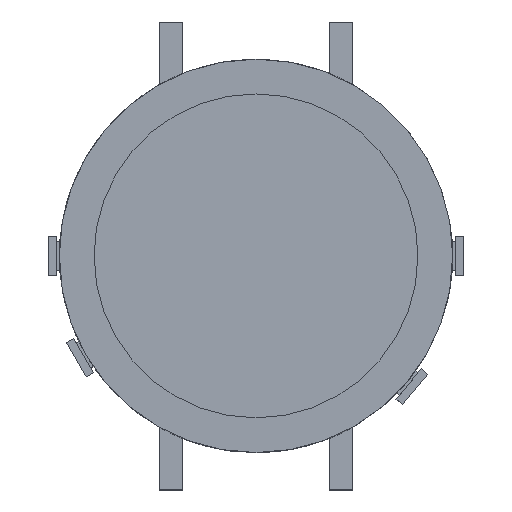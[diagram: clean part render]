
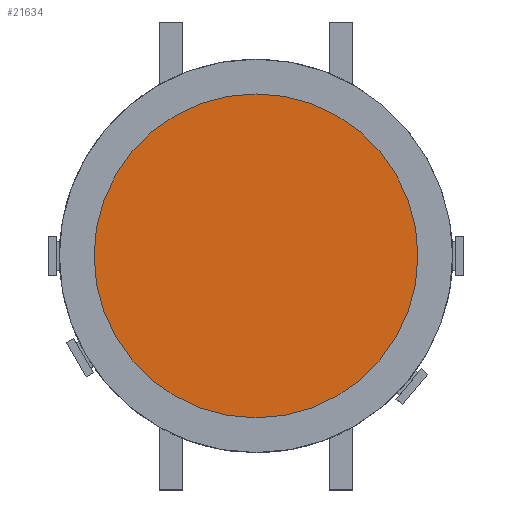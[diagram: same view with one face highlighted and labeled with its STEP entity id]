
A CAD part, top view. The second image highlights one B-rep face of the part: STEP entity #21634.
In plain terms, the highlighted planar face has unit normal (0, 0, 1).
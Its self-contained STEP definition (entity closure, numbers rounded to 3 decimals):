
#21549 = VERTEX_POINT('',#21550);
#21550 = CARTESIAN_POINT('',(25.5,0.,13.15));
#21557 = CYLINDRICAL_SURFACE('',#21558,25.5);
#21558 = AXIS2_PLACEMENT_3D('',#21559,#21560,#21561);
#21559 = CARTESIAN_POINT('',(0.,0.,7.15));
#21560 = DIRECTION('',(-0.,-0.,-1.));
#21561 = DIRECTION('',(1.,0.,0.));
#21576 = EDGE_CURVE('',#21549,#21549,#21577,.T.);
#21577 = SURFACE_CURVE('',#21578,(#21583,#21590),.PCURVE_S1.);
#21578 = CIRCLE('',#21579,25.5);
#21579 = AXIS2_PLACEMENT_3D('',#21580,#21581,#21582);
#21580 = CARTESIAN_POINT('',(0.,0.,13.15));
#21581 = DIRECTION('',(0.,0.,1.));
#21582 = DIRECTION('',(1.,0.,0.));
#21583 = PCURVE('',#21557,#21584);
#21584 = DEFINITIONAL_REPRESENTATION('',(#21585),#21589);
#21585 = LINE('',#21586,#21587);
#21586 = CARTESIAN_POINT('',(-0.,-6.));
#21587 = VECTOR('',#21588,1.);
#21588 = DIRECTION('',(-1.,0.));
#21589 = ( GEOMETRIC_REPRESENTATION_CONTEXT(2) 
PARAMETRIC_REPRESENTATION_CONTEXT() REPRESENTATION_CONTEXT('2D SPACE',''
  ) );
#21590 = PCURVE('',#21591,#21596);
#21591 = PLANE('',#21592);
#21592 = AXIS2_PLACEMENT_3D('',#21593,#21594,#21595);
#21593 = CARTESIAN_POINT('',(0.,0.,
    13.15));
#21594 = DIRECTION('',(0.,0.,1.));
#21595 = DIRECTION('',(1.,0.,-0.));
#21596 = DEFINITIONAL_REPRESENTATION('',(#21597),#21601);
#21597 = CIRCLE('',#21598,25.5);
#21598 = AXIS2_PLACEMENT_2D('',#21599,#21600);
#21599 = CARTESIAN_POINT('',(0.,0.));
#21600 = DIRECTION('',(1.,0.));
#21601 = ( GEOMETRIC_REPRESENTATION_CONTEXT(2) 
PARAMETRIC_REPRESENTATION_CONTEXT() REPRESENTATION_CONTEXT('2D SPACE',''
  ) );
#21634 = ADVANCED_FACE('',(#21635),#21591,.T.);
#21635 = FACE_BOUND('',#21636,.T.);
#21636 = EDGE_LOOP('',(#21637));
#21637 = ORIENTED_EDGE('',*,*,#21576,.T.);
